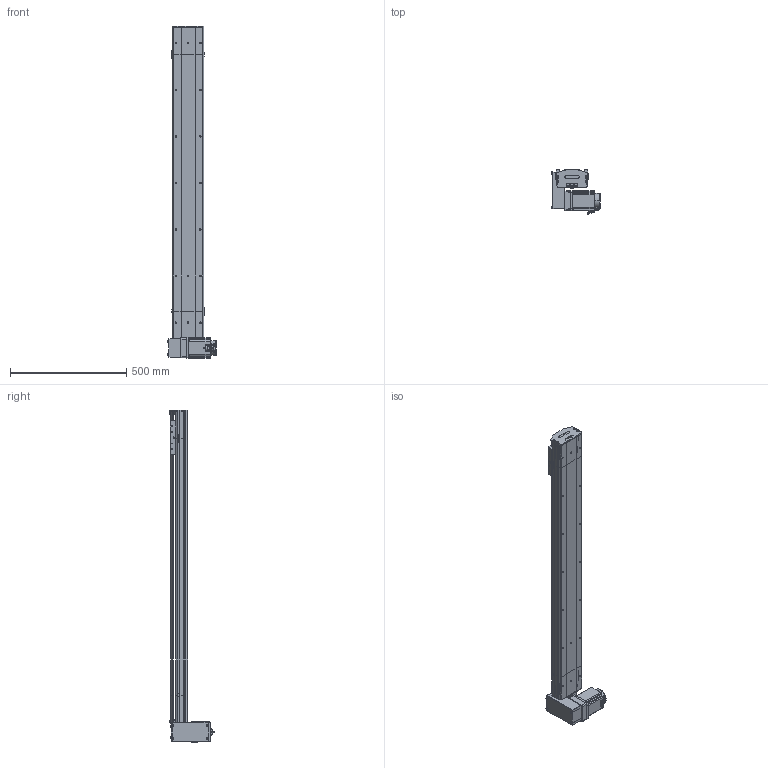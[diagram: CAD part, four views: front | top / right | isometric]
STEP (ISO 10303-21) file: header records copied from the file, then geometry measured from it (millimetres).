
FILE_DESCRIPTION (( 'STEP AP214' ), '1' );
FILE_NAME ('D14 TBH RU S1100.STEP', '2010-06-29T13:54:08', ( 'Conseil Régional Haute-Normandie' ), ( 'Conseil Régional Haute-Normandie' ), 'SwSTEP 2.0', 'SolidWorks 2010', '' );
FILE_SCHEMA (( 'AUTOMOTIVE_DESIGN' ));
Length unit declared in the file: millimetre
Products named in the file (39): plaque de  bout head D14 RU_Default; poulie tail_Default; Arbre+rail tail D14; Moteur motionking 90BLDC100A-640; Couroie_Default; D14 TB H RU_Default; avant 90BLDC100A-640; couvercle D14_Default; corp head D14_Default; couroie 2_Default; poulie head_Default; Arbre+rail head D14; couvercle D14 head_Default; vis M5 L8 90°_Default; Cache_Default; Plaque racord D14_Default; Cache arbre_Default; corps 90BLDC100A-640; Conecteur2_Default; codeur 90BLDC100-640; Conecteur_Default; vis M5 L12_Default; chariot D14B_Default; Cvis M5 L70_Default; Vis M5 L16-2_Default; vis M5 L5_Default; renvoi RH_Default; guide D14; Chariot D14; D14 couroie L1100_Default; couvercle D14 course L1100_Default; Rail + couroie D14 Course 1100 ; D14 TBH RU S1100; tete d''axe haut D14; plaque de  bout tail D14_Default; corpl tail D14_Default; Tail D14B_Default; corpl 1100_Default; vis M5 L16_Default
Assembly tree (68 placements, depth 4):
  D14 TBH RU S1100
    Tail D14B_Default
      poulie tail_Default
      vis M5 L12_Default  x4
      Arbre+rail tail D14
      tete d''axe haut D14
      vis M5 L16_Default  x2
      vis M5 L8 90°_Default  x2
      plaque de  bout tail D14_Default
      couvercle D14_Default
      corpl tail D14_Default
      Couroie_Default
    D14 TB H RU_Default
      couvercle D14 head_Default
      vis M5 L5_Default  x2
      vis M5 L12_Default  x12
      Cache arbre_Default
      corp head D14_Default
      Cvis M5 L70_Default  x4
      couroie 2_Default
      Moteur motionking 90BLDC100A-640
        corps 90BLDC100A-640
        avant 90BLDC100A-640
        Conecteur2_Default
        codeur 90BLDC100-640
        Conecteur_Default
      poulie head_Default
      Vis M5 L16-2_Default  x4
      Arbre+rail head D14
      Cache_Default  x2
      plaque de  bout head D14 RU_Default
      Plaque racord D14_Default
      renvoi RH_Default
    chariot D14B_Default
      Chariot D14
      vis M5 L12_Default  x4
      guide D14  x2
    D14 couroie L1100_Default
      corpl 1100_Default
      couvercle D14 course L1100_Default
      Rail + couroie D14 Course 1100 
Bounding box: 207.2 x 191.1 x 1425.75 mm (x, y, z)
Volume: 6394213.3 mm3; surface area: 2081193.3 mm2
Topology: 92 solids, 92 shells, 2613 faces, 6395 edges, 4122 vertices
Faces by surface type: plane 1585, cylinder 715, bspline 136, torus 89, cone 84, sphere 4
Entity records: 78704 total; most frequent: CARTESIAN_POINT 23469, ORIENTED_EDGE 9650, DIRECTION 9404, EDGE_CURVE 4825, LINE 3262, VECTOR 3262, VERTEX_POINT 3172, AXIS2_PLACEMENT_3D 3071
